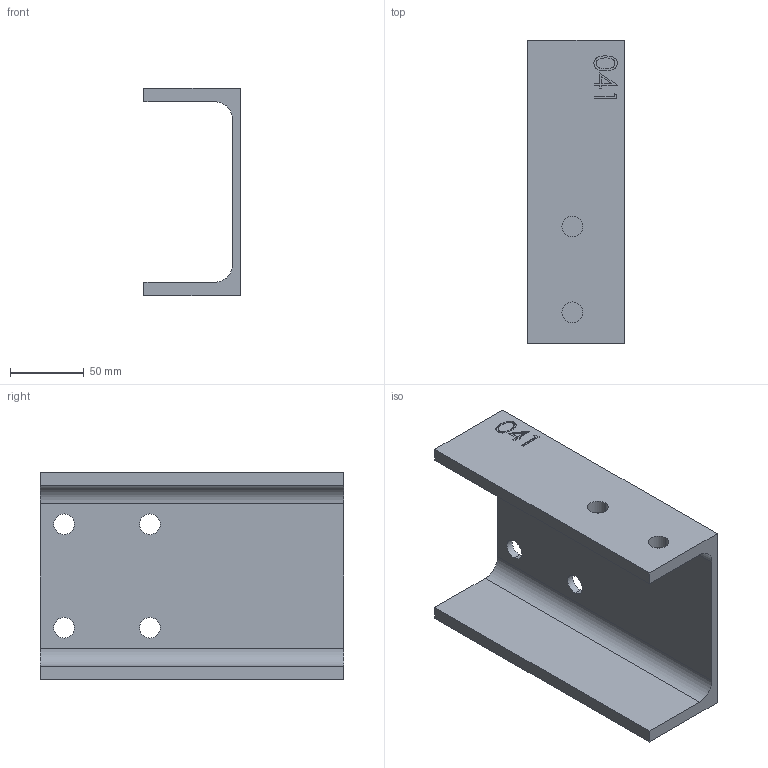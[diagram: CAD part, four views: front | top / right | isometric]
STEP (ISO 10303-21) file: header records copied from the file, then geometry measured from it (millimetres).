
FILE_DESCRIPTION (( 'STEP AP214' ), '1' );
FILE_NAME ('CCJ029-REP.041 - JONCTION PLANCHER INF.-POTEAU C4.STEP', '2024-01-10T14:36:18', ( '' ), ( '' ), 'SwSTEP 2.0', 'SolidWorks 2021', '' );
FILE_SCHEMA (( 'AUTOMOTIVE_DESIGN' ));
Length unit declared in the file: millimetre
Products named in the file (1): CCJ029-REP.041 - JONCTION PLANCHER INF.-POTEAU C4
Bounding box: 65 x 205 x 140 mm (x, y, z)
Volume: 371659.8 mm3; surface area: 110134.1 mm2
Topology: 1 solids, 1 shells, 57 faces, 150 edges, 100 vertices
Faces by surface type: plane 34, cylinder 14, bspline 9
Entity records: 2532 total; most frequent: CARTESIAN_POINT 1093, ORIENTED_EDGE 300, DIRECTION 258, EDGE_CURVE 150, VECTOR 104, LINE 104, VERTEX_POINT 100, AXIS2_PLACEMENT_3D 77
